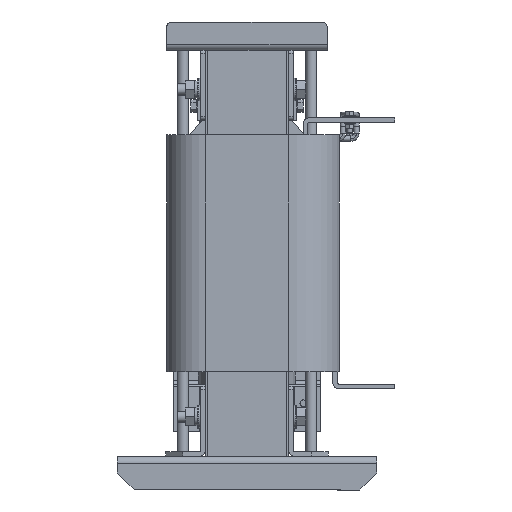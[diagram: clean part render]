
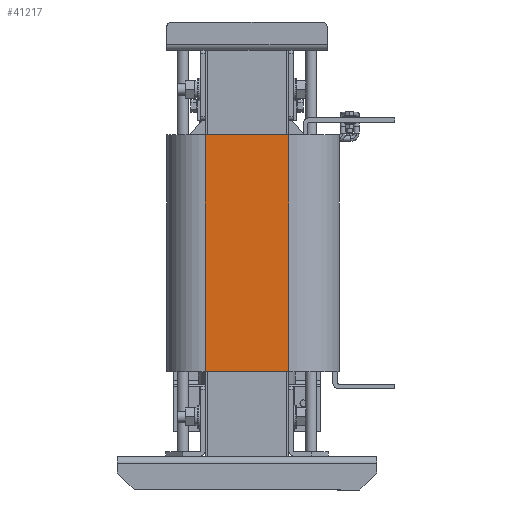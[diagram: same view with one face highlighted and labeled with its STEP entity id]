
A CAD part, left-side view. The second image highlights one B-rep face of the part: STEP entity #41217.
In plain terms, the highlighted planar face has unit normal (-1, 0, 0).
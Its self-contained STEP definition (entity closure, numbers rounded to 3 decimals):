
#23 = EDGE_CURVE ( 'NONE', #31438, #19137, #11905, .T. ) ;
#3162 = VERTEX_POINT ( 'NONE', #32361 ) ;
#3855 = ORIENTED_EDGE ( 'NONE', *, *, #23, .F. ) ;
#4979 = CARTESIAN_POINT ( 'NONE',  ( -219., -35., 285. ) ) ;
#5490 = DIRECTION ( 'NONE',  ( -1., 0., 0. ) ) ;
#6191 = CARTESIAN_POINT ( 'NONE',  ( -219., -108.967, 75. ) ) ;
#7751 = LINE ( 'NONE', #17817, #34173 ) ;
#11683 = CARTESIAN_POINT ( 'NONE',  ( -219., -108.967, 75. ) ) ;
#11905 = LINE ( 'NONE', #11683, #20914 ) ;
#12188 = FACE_OUTER_BOUND ( 'NONE', #41127, .T. ) ;
#12417 = DIRECTION ( 'NONE',  ( 0., 0., 1. ) ) ;
#12846 = ORIENTED_EDGE ( 'NONE', *, *, #26428, .F. ) ;
#13072 = LINE ( 'NONE', #16194, #17408 ) ;
#15765 = CARTESIAN_POINT ( 'NONE',  ( -219., -108.967, 75. ) ) ;
#16194 = CARTESIAN_POINT ( 'NONE',  ( -219., -35., 75. ) ) ;
#17408 = VECTOR ( 'NONE', #20020, 1000. ) ;
#17817 = CARTESIAN_POINT ( 'NONE',  ( -219., -76.365, 285. ) ) ;
#18393 = VERTEX_POINT ( 'NONE', #4979 ) ;
#19137 = VERTEX_POINT ( 'NONE', #6191 ) ;
#20020 = DIRECTION ( 'NONE',  ( 0., 0., -1. ) ) ;
#20914 = VECTOR ( 'NONE', #38983, 1000. ) ;
#22004 = EDGE_CURVE ( 'NONE', #18393, #3162, #13072, .T. ) ;
#24749 = DIRECTION ( 'NONE',  ( 0., -1., 0. ) ) ;
#25567 = DIRECTION ( 'NONE',  ( 0., -1., 0. ) ) ;
#25831 = PLANE ( 'NONE',  #28221 ) ;
#26428 = EDGE_CURVE ( 'NONE', #18393, #31438, #7751, .T. ) ;
#26617 = ORIENTED_EDGE ( 'NONE', *, *, #27794, .T. ) ;
#27794 = EDGE_CURVE ( 'NONE', #3162, #19137, #28897, .T. ) ;
#27835 = VECTOR ( 'NONE', #25567, 1000. ) ;
#28221 = AXIS2_PLACEMENT_3D ( 'NONE', #15765, #5490, #12417 ) ;
#28897 = LINE ( 'NONE', #42576, #27835 ) ;
#31438 = VERTEX_POINT ( 'NONE', #36056 ) ;
#32361 = CARTESIAN_POINT ( 'NONE',  ( -219., -35., 75. ) ) ;
#34173 = VECTOR ( 'NONE', #24749, 1000. ) ;
#36056 = CARTESIAN_POINT ( 'NONE',  ( -219., -108.967, 285. ) ) ;
#38983 = DIRECTION ( 'NONE',  ( 0., 0., -1. ) ) ;
#41127 = EDGE_LOOP ( 'NONE', ( #12846, #41433, #26617, #3855 ) ) ;
#41217 = ADVANCED_FACE ( 'NONE', ( #12188 ), #25831, .T. ) ;
#41433 = ORIENTED_EDGE ( 'NONE', *, *, #22004, .T. ) ;
#42576 = CARTESIAN_POINT ( 'NONE',  ( -219., -76.365, 75. ) ) ;
